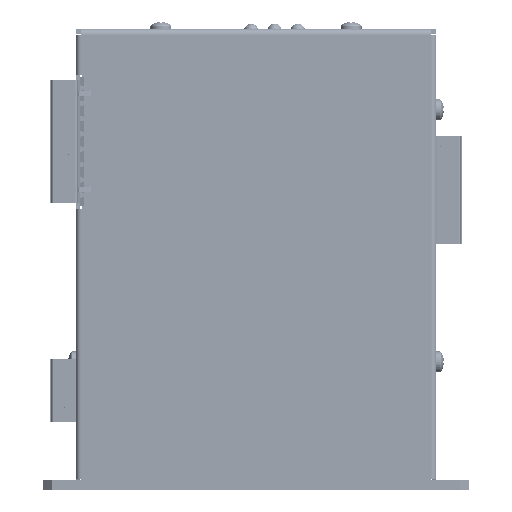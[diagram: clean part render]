
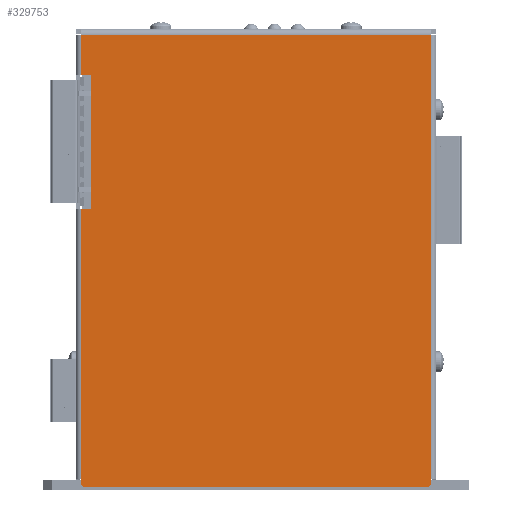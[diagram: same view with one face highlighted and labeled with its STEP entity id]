
A CAD part, top view. The second image highlights one B-rep face of the part: STEP entity #329753.
In plain terms, the highlighted planar face has unit normal (0, 0, 1).
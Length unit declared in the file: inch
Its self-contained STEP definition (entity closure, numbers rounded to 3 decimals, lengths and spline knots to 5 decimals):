
#19093 = ORIENTED_EDGE ( 'NONE', *, *, #171693, .F. ) ;
#19102 = ORIENTED_EDGE ( 'NONE', *, *, #171706, .F. ) ;
#19110 = ORIENTED_EDGE ( 'NONE', *, *, #171683, .F. ) ;
#19120 = ORIENTED_EDGE ( 'NONE', *, *, #171698, .T. ) ;
#19126 = ORIENTED_EDGE ( 'NONE', *, *, #171672, .F. ) ;
#19135 = ORIENTED_EDGE ( 'NONE', *, *, #171688, .F. ) ;
#19142 = ORIENTED_EDGE ( 'NONE', *, *, #171662, .T. ) ;
#19149 = ORIENTED_EDGE ( 'NONE', *, *, #171677, .F. ) ;
#19160 = ORIENTED_EDGE ( 'NONE', *, *, #171653, .T. ) ;
#19173 = ORIENTED_EDGE ( 'NONE', *, *, #171667, .F. ) ;
#19180 = ORIENTED_EDGE ( 'NONE', *, *, #171644, .F. ) ;
#19187 = ORIENTED_EDGE ( 'NONE', *, *, #171658, .T. ) ;
#19198 = ORIENTED_EDGE ( 'NONE', *, *, #171702, .T. ) ;
#19205 = ORIENTED_EDGE ( 'NONE', *, *, #171748, .T. ) ;
#56042 = EDGE_LOOP ( 'NONE', ( #19093, #19102, #19110, #19120, #19126, #19135, #19142, #19149, #19160, #19173, #19180, #19187, #19198, #19205 ) ) ;
#99303 = LINE ( 'NONE', #104885, #99341 ) ;
#99329 = LINE ( 'NONE', #104919, #99365 ) ;
#99341 = VECTOR ( 'NONE', #104943, 39.37008 ) ;
#99344 = LINE ( 'NONE', #104952, #99356 ) ;
#99352 = LINE ( 'NONE', #104940, #99397 ) ;
#99356 = VECTOR ( 'NONE', #104959, 39.37008 ) ;
#99360 = LINE ( 'NONE', #104973, #99372 ) ;
#99365 = VECTOR ( 'NONE', #104963, 39.37008 ) ;
#99368 = LINE ( 'NONE', #104979, #99376 ) ;
#99372 = VECTOR ( 'NONE', #104976, 39.37008 ) ;
#99374 = LINE ( 'NONE', #104985, #99384 ) ;
#99376 = VECTOR ( 'NONE', #104983, 39.37008 ) ;
#99379 = LINE ( 'NONE', #104990, #99390 ) ;
#99384 = VECTOR ( 'NONE', #104988, 39.37008 ) ;
#99387 = LINE ( 'NONE', #104955, #99403 ) ;
#99390 = VECTOR ( 'NONE', #104995, 39.37008 ) ;
#99394 = LINE ( 'NONE', #104993, #99409 ) ;
#99397 = VECTOR ( 'NONE', #104997, 39.37008 ) ;
#99400 = LINE ( 'NONE', #105000, #99414 ) ;
#99403 = VECTOR ( 'NONE', #105001, 39.37008 ) ;
#99409 = VECTOR ( 'NONE', #105010, 39.37008 ) ;
#99412 = LINE ( 'NONE', #105026, #99421 ) ;
#99414 = VECTOR ( 'NONE', #105020, 39.37008 ) ;
#99417 = LINE ( 'NONE', #105032, #99425 ) ;
#99421 = VECTOR ( 'NONE', #105030, 39.37008 ) ;
#99425 = VECTOR ( 'NONE', #105035, 39.37008 ) ;
#99482 = LINE ( 'NONE', #105148, #99492 ) ;
#99492 = VECTOR ( 'NONE', #105153, 39.37008 ) ;
#104885 = CARTESIAN_POINT ( 'NONE',  ( 4.65, -5.8, 0. ) ) ;
#104919 = CARTESIAN_POINT ( 'NONE',  ( 4.58, -5.8, 0. ) ) ;
#104940 = CARTESIAN_POINT ( 'NONE',  ( 0., -2.3125, 0. ) ) ;
#104943 = DIRECTION ( 'NONE',  ( -1., 0., 0. ) ) ;
#104952 = CARTESIAN_POINT ( 'NONE',  ( 4.6, -5.85, 0. ) ) ;
#104955 = CARTESIAN_POINT ( 'NONE',  ( 0.075, -5.9, 0. ) ) ;
#104959 = DIRECTION ( 'NONE',  ( 0.707, 0.707, 0. ) ) ;
#104963 = DIRECTION ( 'NONE',  ( 0., 1., 0. ) ) ;
#104973 = CARTESIAN_POINT ( 'NONE',  ( 2.375, -8.175, 0. ) ) ;
#104976 = DIRECTION ( 'NONE',  ( 0.707, -0.707, 0. ) ) ;
#104979 = CARTESIAN_POINT ( 'NONE',  ( 4.575, -5.9, 0. ) ) ;
#104983 = DIRECTION ( 'NONE',  ( 0., -1., 0. ) ) ;
#104985 = CARTESIAN_POINT ( 'NONE',  ( 0., -5.8, 0. ) ) ;
#104988 = DIRECTION ( 'NONE',  ( -1., 0., 0. ) ) ;
#104990 = CARTESIAN_POINT ( 'NONE',  ( 4.65, -5.9, 0. ) ) ;
#104993 = CARTESIAN_POINT ( 'NONE',  ( 0., -0.5875, 0. ) ) ;
#104995 = DIRECTION ( 'NONE',  ( -1., 0., 0. ) ) ;
#104997 = DIRECTION ( 'NONE',  ( 1., 0., 0. ) ) ;
#105000 = CARTESIAN_POINT ( 'NONE',  ( 0.07, -0.07, 0. ) ) ;
#105001 = DIRECTION ( 'NONE',  ( 0., 1., 0. ) ) ;
#105010 = DIRECTION ( 'NONE',  ( -1., 0., 0. ) ) ;
#105020 = DIRECTION ( 'NONE',  ( 0., -1., 0. ) ) ;
#105026 = CARTESIAN_POINT ( 'NONE',  ( 4.65, -0.07, 0. ) ) ;
#105030 = DIRECTION ( 'NONE',  ( -1., 0., 0. ) ) ;
#105032 = CARTESIAN_POINT ( 'NONE',  ( 0.2, -0.5875, 0. ) ) ;
#105035 = DIRECTION ( 'NONE',  ( 0., 1., 0. ) ) ;
#105148 = CARTESIAN_POINT ( 'NONE',  ( 0.07, -0.07, 0. ) ) ;
#105153 = DIRECTION ( 'NONE',  ( 0., -1., 0. ) ) ;
#122043 = CARTESIAN_POINT ( 'NONE',  ( 0.07, -0.07, 0. ) ) ;
#122049 = CARTESIAN_POINT ( 'NONE',  ( 0.07, -2.3125, 0. ) ) ;
#122052 = CARTESIAN_POINT ( 'NONE',  ( 0.07, -0.5875, 0. ) ) ;
#122058 = CARTESIAN_POINT ( 'NONE',  ( 4.55, -5.9, 0. ) ) ;
#122065 = CARTESIAN_POINT ( 'NONE',  ( 0.2, -0.5875, 0. ) ) ;
#122075 = CARTESIAN_POINT ( 'NONE',  ( 0.2, -2.3125, 0. ) ) ;
#122078 = CARTESIAN_POINT ( 'NONE',  ( 4.58, -0.07, 0. ) ) ;
#122080 = CARTESIAN_POINT ( 'NONE',  ( 0.075, -5.8, 0. ) ) ;
#122082 = CARTESIAN_POINT ( 'NONE',  ( 0.075, -5.875, 0. ) ) ;
#122085 = CARTESIAN_POINT ( 'NONE',  ( 4.58, -5.8, 0. ) ) ;
#122088 = CARTESIAN_POINT ( 'NONE',  ( 0.07, -5.8, 0. ) ) ;
#122092 = CARTESIAN_POINT ( 'NONE',  ( 4.575, -5.8, 0. ) ) ;
#122095 = CARTESIAN_POINT ( 'NONE',  ( 0.1, -5.9, 0. ) ) ;
#122099 = CARTESIAN_POINT ( 'NONE',  ( 4.575, -5.875, 0. ) ) ;
#171644 = EDGE_CURVE ( 'NONE', #199135, #199140, #99303, .T. ) ;
#171653 = EDGE_CURVE ( 'NONE', #199113, #199146, #99344, .T. ) ;
#171658 = EDGE_CURVE ( 'NONE', #199135, #199130, #99329, .T. ) ;
#171662 = EDGE_CURVE ( 'NONE', #199134, #199142, #99360, .T. ) ;
#171667 = EDGE_CURVE ( 'NONE', #199140, #199146, #99368, .T. ) ;
#171672 = EDGE_CURVE ( 'NONE', #199132, #199138, #99374, .T. ) ;
#171677 = EDGE_CURVE ( 'NONE', #199113, #199142, #99379, .T. ) ;
#171683 = EDGE_CURVE ( 'NONE', #199108, #199128, #99352, .T. ) ;
#171688 = EDGE_CURVE ( 'NONE', #199134, #199132, #99387, .T. ) ;
#171693 = EDGE_CURVE ( 'NONE', #199119, #199110, #99394, .T. ) ;
#171698 = EDGE_CURVE ( 'NONE', #199108, #199138, #99400, .T. ) ;
#171702 = EDGE_CURVE ( 'NONE', #199130, #199104, #99412, .T. ) ;
#171706 = EDGE_CURVE ( 'NONE', #199128, #199119, #99417, .T. ) ;
#171748 = EDGE_CURVE ( 'NONE', #199104, #199110, #99482, .T. ) ;
#199104 = VERTEX_POINT ( 'NONE', #122043 ) ;
#199108 = VERTEX_POINT ( 'NONE', #122049 ) ;
#199110 = VERTEX_POINT ( 'NONE', #122052 ) ;
#199113 = VERTEX_POINT ( 'NONE', #122058 ) ;
#199119 = VERTEX_POINT ( 'NONE', #122065 ) ;
#199128 = VERTEX_POINT ( 'NONE', #122075 ) ;
#199130 = VERTEX_POINT ( 'NONE', #122078 ) ;
#199132 = VERTEX_POINT ( 'NONE', #122080 ) ;
#199134 = VERTEX_POINT ( 'NONE', #122082 ) ;
#199135 = VERTEX_POINT ( 'NONE', #122085 ) ;
#199138 = VERTEX_POINT ( 'NONE', #122088 ) ;
#199140 = VERTEX_POINT ( 'NONE', #122092 ) ;
#199142 = VERTEX_POINT ( 'NONE', #122095 ) ;
#199146 = VERTEX_POINT ( 'NONE', #122099 ) ;
#266619 = AXIS2_PLACEMENT_3D ( 'NONE', #316004, #316008, #316012 ) ;
#315965 = PLANE ( 'NONE',  #266619 ) ;
#316004 = CARTESIAN_POINT ( 'NONE',  ( 4.65, -5.9, 0. ) ) ;
#316008 = DIRECTION ( 'NONE',  ( 0., 0., 1. ) ) ;
#316012 = DIRECTION ( 'NONE',  ( 1., 0., 0. ) ) ;
#320492 = FACE_OUTER_BOUND ( 'NONE', #56042, .T. ) ;
#329753 = ADVANCED_FACE ( 'NONE', ( #320492 ), #315965, .T. ) ;
